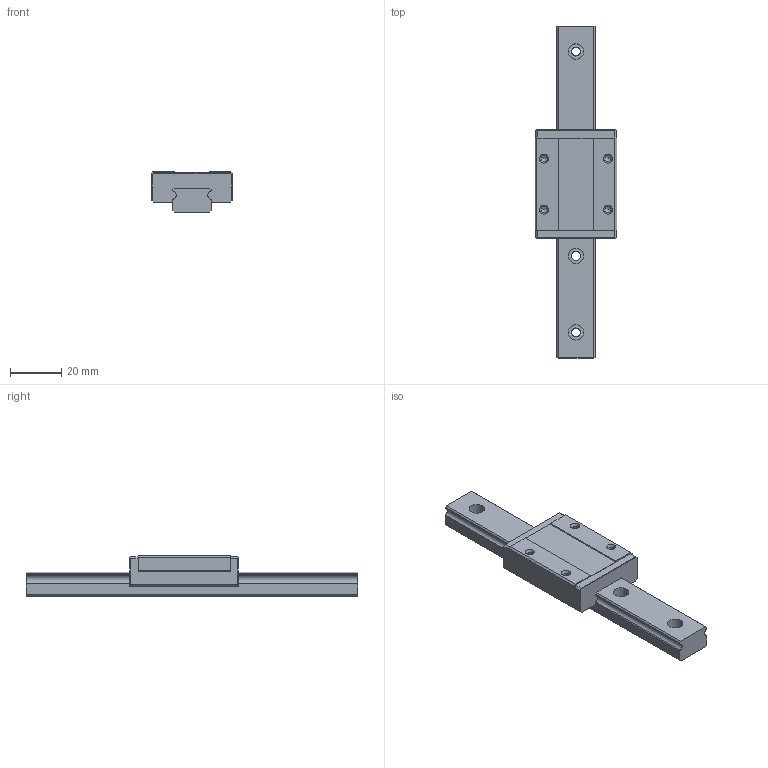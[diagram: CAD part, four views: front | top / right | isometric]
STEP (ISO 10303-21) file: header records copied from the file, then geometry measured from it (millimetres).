
FILE_DESCRIPTION( ( '' ), '1' );
FILE_NAME( 'V:\MSC\MODEL File\MAC catalog drawing\STEP\MSC15M.stp', ' ', ( '' ), ( '' ), 'ACIS Interop R16', 'Kubotek KeyCreator V6.3.0 (0248)', ' ' );
FILE_SCHEMA( ( 'CONFIG_CONTROL_DESIGN' ) );
Length unit declared in the file: millimetre
Products named in the file (2): 1; 2
Bounding box: 32 x 130 x 16 mm (x, y, z)
Volume: 29467.6 mm3; surface area: 12182.4 mm2
Topology: 2 solids, 2 shells, 116 faces, 304 edges, 192 vertices
Faces by surface type: plane 64, cylinder 36, cone 16
Entity records: 3606 total; most frequent: DIRECTION 618, CARTESIAN_POINT 612, ORIENTED_EDGE 592, EDGE_CURVE 296, AXIS2_PLACEMENT_3D 206, LINE 206, VECTOR 206, VERTEX_POINT 192
